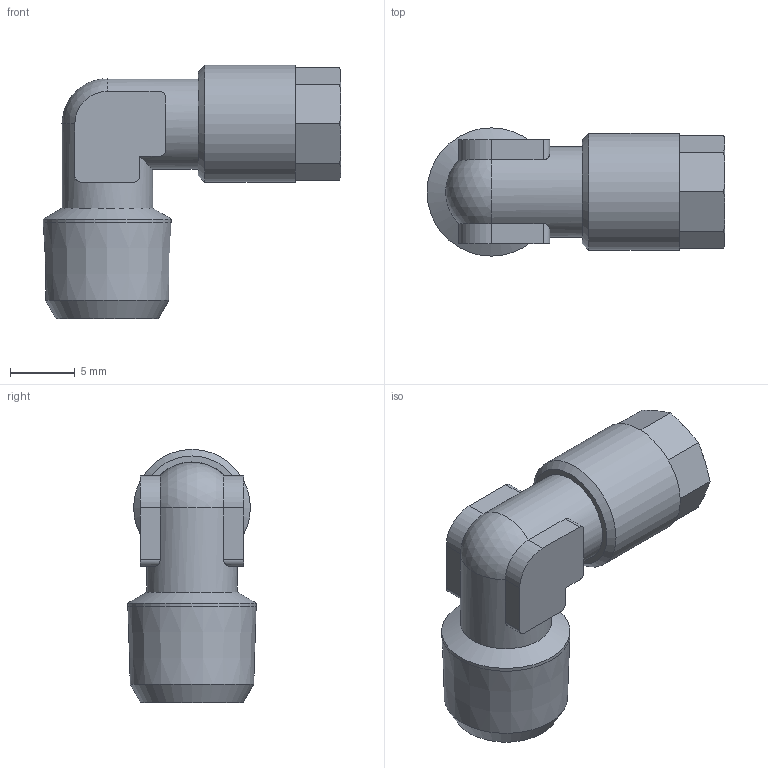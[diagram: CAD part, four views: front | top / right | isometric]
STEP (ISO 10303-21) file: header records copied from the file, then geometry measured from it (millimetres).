
FILE_DESCRIPTION(/* description */ (''),/* implementation_level */ '2;1');
FILE_NAME(/* name */ '11001_305_53_R18_17.07.17',/* time_stamp */ '2017-07-17T15:51:14+02:00',/* author */ (''),/* organization */ (''),/* preprocessor_version */ 'ST-DEVELOPER v16.5',/* originating_system */ 'HiCAD 2016 2102.2 Build 618',/* authorisation */ '');
FILE_SCHEMA (('AUTOMOTIVE_DESIGN { 1 0 10303 214 1 1 1 1 }'));
Length unit declared in the file: millimetre
Products named in the file (3): Root; 17003; R11001
Assembly tree (2 placements, depth 2):
  Root
    17003
    R11001
Bounding box: 22.94 x 9.88 x 19.5 mm (x, y, z)
Volume: 1561.5 mm3; surface area: 1703.4 mm2
Topology: 2 solids, 2 shells, 74 faces, 186 edges, 118 vertices
Faces by surface type: plane 29, cone 22, cylinder 21, torus 1, sphere 1
Full cylindrical faces by diameter (mm): 2 x2, 3.7 x1, 5 x1, 5.5 x1, 6.08 x1, 7 x2, 9 x1, 9.884 x1
Entity records: 4945 total; most frequent: CARTESIAN_POINT 1818, DIRECTION 362, PRESENTATION_STYLE_ASSIGNMENT 296, COLOUR_RGB 295, DRAUGHTING_PRE_DEFINED_CURVE_FONT 294, CURVE_STYLE 294, OVER_RIDING_STYLED_ITEM 294, ORIENTED_EDGE 294
